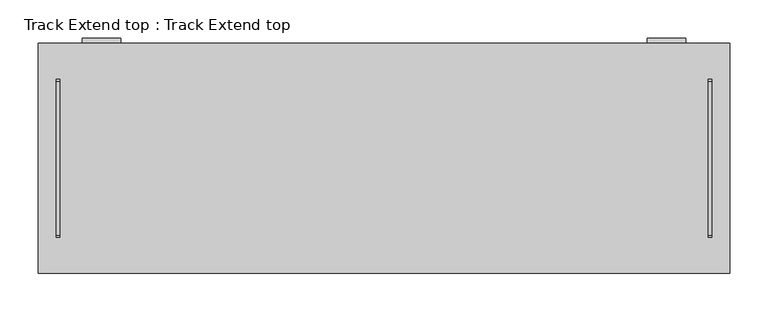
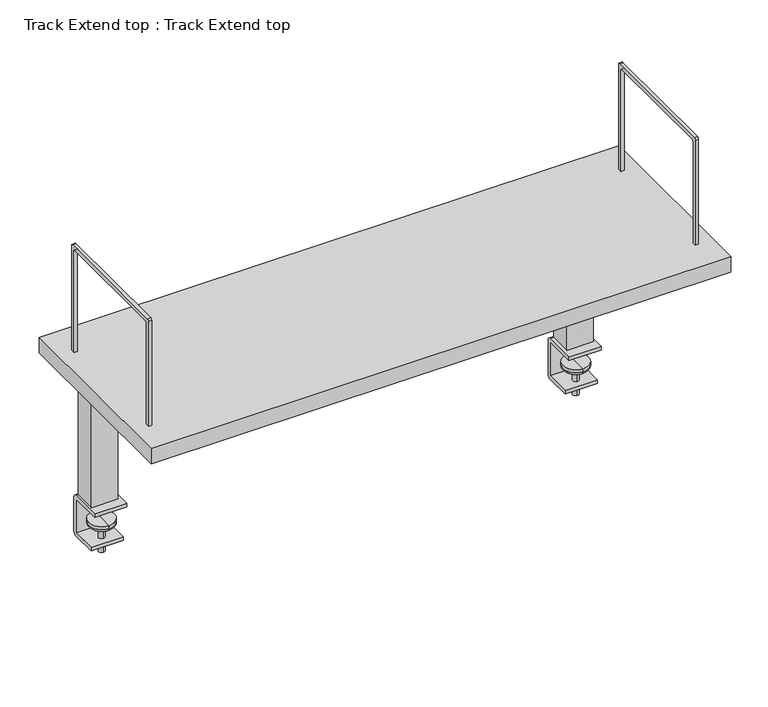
"""IFC4 building model written with IfcOpenShell, lengths in millimetres: furniture geometry, Track Extend top : Track Extend top."""

from ifc_helpers import new_model, si_unit, point, frame, frame_2d, origin, place, context, project, spatial, polyline, circle_curve, ellipse_curve, trimmed, segment, composite_curve, outline, extrude, source, transform, mapped, element, save
from ifc_brep_helpers import plane_surface, cylinder_surface, revolved_surface, advanced_brep


def track_extend_top_track_extend_top_a8d275c8(model_context):
    return source(origin(), model_context, "Body", "SolidModel", [
        extrude(outline(composite_curve([segment(polyline([(977.9999909, 347.5000008), (977.9999909, 389.5000057)]), True, "CONTINUOUS"), segment(trimmed(circle_curve(frame_2d((977.9999909, 387.5000024)), 2.0000033), [point((977.9999909, 389.5000057))], [point((979.9999943, 387.5000024))], False, "CARTESIAN"), True, "CONTINUOUS"), segment(polyline([(979.9999943, 387.5000024), (979.9999943, 347.5000008), (977.9999909, 347.5000008)]), True, "CONTINUOUS")], self_intersect=False)), frame((0.0, -200.0000015, 0.0), z_axis=(0.0, 1.0, 0.0), x_axis=(0.0, 0.0, 1.0)), (0.0, 0.0, 1.0), 200.0000015),
        extrude(outline(composite_curve([segment(polyline([(-79.5585159, 954.8786407), (-185.0003357, 964.9999706), (-198.0001236, 977.9999765), (-35.0001892, 977.9999765), (-35.0001892, 906.491415)]), True, "CONTINUOUS"), segment(trimmed(circle_curve(frame_2d((-84.2663421, 905.8335288)), 49.2705453), [point((-35.0001892, 906.491415))], [point((-79.5585159, 954.8786407))], True, "CARTESIAN"), True, "CONTINUOUS")], self_intersect=False)), frame((387.500003, 0.0, 0.0), z_axis=(1.0, 0.0, 0.0), x_axis=(0.0, 1.0, 0.0)), (0.0, 0.0, 1.0), 2.0000006),
        extrude(outline(polyline([(350.4999994, -33.0003113), (385.5000024, -33.0003113), (385.5000024, -18.0000641), (387.500003, -18.0000641), (387.500003, 0.0), (389.5000035, 0.0), (389.5000035, -35.0001892), (348.5000034, -35.0001892), (348.5000034, 0.0), (350.4999994, 0.0), (350.4999994, -33.0003113)])), frame((0.0, 0.0, 726.000024), z_axis=(0.0, 0.0, 1.0), x_axis=(1.0, 0.0, 0.0)), (0.0, 0.0, 1.0), 251.9999525),
        advanced_brep(
        [(368.0000032, -29.7499283, 641.9999914), (368.0000032, -24.9999275, 641.9999914), (368.0000032, -20.2499268, 641.9999914), (368.0000032, -29.7499283, 684.999983), (368.0000032, -20.2499268, 684.999983), (368.0000032, -39.9995789, 684.999983), (368.0000032, -10.0002762, 684.999983), (368.0000032, -44.9995789, 689.999983), (368.0000032, -5.0002762, 689.999983), (368.0000032, -44.9995789, 695.0000267), (368.0000032, -5.0002762, 695.0000267), (368.0000032, -24.9999275, 695.0000267)],
        [
            (0, 1),
            (1, 2),
            (2, 0, circle_curve(frame((368.0000032, -24.9999275, 641.9999914), z_axis=(0.0, 0.0, -1.0), x_axis=(0.0, 1.0, 0.0)), 4.7500008)),
            (0, 2, circle_curve(frame((368.0000032, -24.9999275, 641.9999914), z_axis=(0.0, 0.0, -1.0), x_axis=(0.0, 1.0, 0.0)), 4.7500008)),
            (3, 0),
            (2, 4),
            (4, 3, circle_curve(frame((368.0000032, -24.9999275, 684.999983), z_axis=(0.0, 0.0, -1.0), x_axis=(0.0, 1.0, 0.0)), 4.7500008)),
            (3, 4, circle_curve(frame((368.0000032, -24.9999275, 684.999983), z_axis=(0.0, 0.0, -1.0), x_axis=(0.0, 1.0, 0.0)), 4.7500008)),
            (5, 3),
            (4, 6),
            (6, 5, circle_curve(frame((368.0000032, -24.9999275, 684.999983), z_axis=(0.0, 0.0, -1.0), x_axis=(0.0, 1.0, 0.0)), 14.9996513)),
            (5, 6, circle_curve(frame((368.0000032, -24.9999275, 684.999983), z_axis=(0.0, 0.0, -1.0), x_axis=(0.0, 1.0, 0.0)), 14.9996513)),
            (7, 5, circle_curve(frame((368.0000032, -39.9995789, 689.999983), z_axis=(1.0, 0.0, 0.0), x_axis=(0.0, -1.0, 0.0)), 5.0)),
            (6, 8, circle_curve(frame((368.0000032, -10.0002762, 689.999983), z_axis=(1.0, 0.0, 0.0), x_axis=(0.0, 1.0, 0.0)), 5.0)),
            (8, 7, circle_curve(frame((368.0000032, -24.9999275, 689.999983), z_axis=(0.0, 0.0, -1.0), x_axis=(0.0, 1.0, 0.0)), 19.9996513)),
            (7, 8, circle_curve(frame((368.0000032, -24.9999275, 689.999983), z_axis=(0.0, 0.0, -1.0), x_axis=(0.0, 1.0, 0.0)), 19.9996513)),
            (9, 7),
            (8, 10),
            (10, 9, circle_curve(frame((368.0000032, -24.9999275, 695.0000267), z_axis=(0.0, 0.0, -1.0), x_axis=(0.0, 1.0, 0.0)), 19.9996513)),
            (9, 10, circle_curve(frame((368.0000032, -24.9999275, 695.0000267), z_axis=(0.0, 0.0, -1.0), x_axis=(0.0, 1.0, 0.0)), 19.9996513)),
            (11, 9),
            (10, 11),
        ],
        [
            plane_surface(frame((368.0000032, -24.9999275, 641.9999914), z_axis=(0.0, 0.0, -1.0), x_axis=(0.0, 1.0, 0.0))),
            cylinder_surface(frame((368.0000032, -24.9999275, 695.0000267), z_axis=(0.0, 0.0, 1.0), x_axis=(0.0, 1.0, 0.0)), 4.7500008),
            plane_surface(frame((368.0000032, -24.9999275, 684.999983), z_axis=(0.0, 0.0, -1.0), x_axis=(0.0, 1.0, 0.0))),
            revolved_surface(trimmed(ellipse_curve(frame((368.0000032, -10.0002762, 689.999983), z_axis=(1.0, 0.0, 0.0), x_axis=(0.0, 1.0, 0.0)), 5.0, 5.0), [point((368.0000032, -10.0002762, 684.999983))], [point((368.0000032, -5.0002762, 689.999983))], True, "CARTESIAN"), (368.0000032, -24.9999275, 695.0000267), (0.0, 0.0, 1.0)),
            cylinder_surface(frame((368.0000032, -24.9999275, 695.0000267), z_axis=(0.0, 0.0, 1.0), x_axis=(0.0, 1.0, 0.0)), 19.9996513),
            plane_surface(frame((368.0000032, -24.9999275, 695.0000267), z_axis=(0.0, 0.0, 1.0), x_axis=(0.0, 1.0, 0.0))),
        ],
        [
            (0, [[1, 2, 3]]),
            (0, [[-2, -1, 4]]),
            (1, [[5, -3, 6, 7]]),
            (1, [[-6, -4, -5, 8]]),
            (2, [[9, -7, 10, 11]]),
            (2, [[-10, -8, -9, 12]]),
            (3, [[13, -11, 14, 15]]),
            (3, [[-14, -12, -13, 16]]),
            (4, [[17, -15, 18, 19]]),
            (4, [[-18, -16, -17, 20]]),
            (5, [[21, -19, 22]]),
            (5, [[-22, -20, -21]]),
        ],
    ),
        extrude(outline(composite_curve([segment(trimmed(circle_curve(frame_2d((-0.0003662, 720.000024)), 6.0), [point((-0.0003662, 726.000024))], [point((5.9996338, 720.000024))], False, "CARTESIAN"), True, "CONTINUOUS"), segment(polyline([(5.9996338, 720.000024), (5.9996338, 665.0168597)]), True, "CONTINUOUS"), segment(trimmed(circle_curve(frame_2d((-0.0172547, 665.0168597)), 6.0168885), [point((5.9996338, 665.0168597))], [point((-0.0172547, 658.9999712))], False, "CARTESIAN"), True, "CONTINUOUS"), segment(polyline([(-0.0172547, 658.9999712), (-39.999884, 658.9999712), (-39.999884, 665.000041), (0.0, 665.000041), (0.0, 720.0000269), (-50.0004364, 720.0000269), (-50.0004364, 726.000024), (-0.0003662, 726.000024)]), True, "CONTINUOUS")], self_intersect=False)), frame((343.000003, 0.0, 0.0), z_axis=(1.0, 0.0, 0.0), x_axis=(0.0, 1.0, 0.0)), (0.0, 0.0, 1.0), 50.0000004),
        extrude(outline(composite_curve([segment(polyline([(977.9999909, -347.5000008), (979.9999943, -347.5000008), (979.9999943, -387.5000024)]), True, "CONTINUOUS"), segment(trimmed(circle_curve(frame_2d((977.9999909, -387.5000024)), 2.0000033), [point((979.9999943, -387.5000024))], [point((977.9999909, -389.5000057))], False, "CARTESIAN"), True, "CONTINUOUS"), segment(polyline([(977.9999909, -389.5000057), (977.9999909, -347.5000008)]), True, "CONTINUOUS")], self_intersect=False)), frame((0.0, -200.0000015, 0.0), z_axis=(0.0, 1.0, 0.0), x_axis=(0.0, 0.0, 1.0)), (0.0, 0.0, 1.0), 200.0000015),
        extrude(outline(composite_curve([segment(polyline([(-79.5585159, 954.8786407), (-185.0003357, 964.9999706), (-198.0001236, 977.9999765), (-35.0001892, 977.9999765), (-35.0001892, 906.491415)]), True, "CONTINUOUS"), segment(trimmed(circle_curve(frame_2d((-84.2663421, 905.8335288)), 49.2705453), [point((-35.0001892, 906.491415))], [point((-79.5585159, 954.8786407))], True, "CARTESIAN"), True, "CONTINUOUS")], self_intersect=False)), frame((-389.5000035, 0.0, 0.0), z_axis=(1.0, 0.0, 0.0), x_axis=(0.0, 1.0, 0.0)), (0.0, 0.0, 1.0), 2.0000006),
        extrude(outline(polyline([(-350.4999994, -33.0003113), (-350.4999994, 0.0), (-348.5000034, 0.0), (-348.5000034, -35.0001892), (-389.5000035, -35.0001892), (-389.5000035, 0.0), (-387.500003, 0.0), (-387.500003, -18.0000641), (-385.5000024, -18.0000641), (-385.5000024, -33.0003113), (-350.4999994, -33.0003113)])), frame((0.0, 0.0, 726.000024), z_axis=(0.0, 0.0, 1.0), x_axis=(1.0, 0.0, 0.0)), (0.0, 0.0, 1.0), 251.9999525),
        advanced_brep(
        [(-368.0000032, -29.7499283, 641.9999914), (-368.0000032, -20.2499268, 641.9999914), (-368.0000032, -24.9999275, 641.9999914), (-368.0000032, -29.7499283, 684.999983), (-368.0000032, -20.2499268, 684.999983), (-368.0000032, -39.9995789, 684.999983), (-368.0000032, -10.0002762, 684.999983), (-368.0000032, -44.9995789, 689.999983), (-368.0000032, -5.0002762, 689.999983), (-368.0000032, -44.9995789, 695.0000267), (-368.0000032, -5.0002762, 695.0000267), (-368.0000032, -24.9999275, 695.0000267)],
        [
            (0, 1, circle_curve(frame((-368.0000032, -24.9999275, 641.9999914), z_axis=(0.0, 0.0, -1.0), x_axis=(0.0, 1.0, 0.0)), 4.7500008)),
            (1, 2),
            (2, 0),
            (1, 0, circle_curve(frame((-368.0000032, -24.9999275, 641.9999914), z_axis=(0.0, 0.0, -1.0), x_axis=(0.0, 1.0, 0.0)), 4.7500008)),
            (3, 4, circle_curve(frame((-368.0000032, -24.9999275, 684.999983), z_axis=(0.0, 0.0, -1.0), x_axis=(0.0, 1.0, 0.0)), 4.7500008)),
            (4, 1),
            (0, 3),
            (4, 3, circle_curve(frame((-368.0000032, -24.9999275, 684.999983), z_axis=(0.0, 0.0, -1.0), x_axis=(0.0, 1.0, 0.0)), 4.7500008)),
            (5, 6, circle_curve(frame((-368.0000032, -24.9999275, 684.999983), z_axis=(0.0, 0.0, -1.0), x_axis=(0.0, 1.0, 0.0)), 14.9996513)),
            (6, 4),
            (3, 5),
            (6, 5, circle_curve(frame((-368.0000032, -24.9999275, 684.999983), z_axis=(0.0, 0.0, -1.0), x_axis=(0.0, 1.0, 0.0)), 14.9996513)),
            (7, 8, circle_curve(frame((-368.0000032, -24.9999275, 689.999983), z_axis=(0.0, 0.0, -1.0), x_axis=(0.0, 1.0, 0.0)), 19.9996513)),
            (8, 6, circle_curve(frame((-368.0000032, -10.0002762, 689.999983), z_axis=(-1.0, 0.0, 0.0), x_axis=(0.0, 1.0, 0.0)), 5.0)),
            (5, 7, circle_curve(frame((-368.0000032, -39.9995789, 689.999983), z_axis=(-1.0, 0.0, 0.0), x_axis=(0.0, -1.0, 0.0)), 5.0)),
            (8, 7, circle_curve(frame((-368.0000032, -24.9999275, 689.999983), z_axis=(0.0, 0.0, -1.0), x_axis=(0.0, 1.0, 0.0)), 19.9996513)),
            (9, 10, circle_curve(frame((-368.0000032, -24.9999275, 695.0000267), z_axis=(0.0, 0.0, -1.0), x_axis=(0.0, 1.0, 0.0)), 19.9996513)),
            (10, 8),
            (7, 9),
            (10, 9, circle_curve(frame((-368.0000032, -24.9999275, 695.0000267), z_axis=(0.0, 0.0, -1.0), x_axis=(0.0, 1.0, 0.0)), 19.9996513)),
            (11, 10),
            (9, 11),
        ],
        [
            plane_surface(frame((-368.0000032, -24.9999275, 641.9999914), z_axis=(0.0, 0.0, -1.0), x_axis=(0.0, 1.0, 0.0))),
            cylinder_surface(frame((-368.0000032, -24.9999275, 695.0000267), z_axis=(0.0, 0.0, 1.0), x_axis=(0.0, 1.0, 0.0)), 4.7500008),
            plane_surface(frame((-368.0000032, -24.9999275, 684.999983), z_axis=(0.0, 0.0, -1.0), x_axis=(0.0, 1.0, 0.0))),
            revolved_surface(trimmed(ellipse_curve(frame((-368.0000032, -10.0002762, 689.999983), z_axis=(1.0, 0.0, 0.0), x_axis=(0.0, 1.0, 0.0)), 5.0, 5.0), [point((-368.0000032, -10.0002762, 684.999983))], [point((-368.0000032, -5.0002762, 689.999983))], True, "CARTESIAN"), (-368.0000032, -24.9999275, 695.0000267), (0.0, 0.0, 1.0)),
            cylinder_surface(frame((-368.0000032, -24.9999275, 695.0000267), z_axis=(0.0, 0.0, 1.0), x_axis=(0.0, 1.0, 0.0)), 19.9996513),
            plane_surface(frame((-368.0000032, -24.9999275, 695.0000267), z_axis=(0.0, 0.0, 1.0), x_axis=(0.0, 1.0, 0.0))),
        ],
        [
            (0, [[1, 2, 3]]),
            (0, [[4, -3, -2]]),
            (1, [[5, 6, -1, 7]]),
            (1, [[8, -7, -4, -6]]),
            (2, [[9, 10, -5, 11]]),
            (2, [[12, -11, -8, -10]]),
            (3, [[13, 14, -9, 15]]),
            (3, [[16, -15, -12, -14]]),
            (4, [[17, 18, -13, 19]]),
            (4, [[20, -19, -16, -18]]),
            (5, [[21, -17, 22]]),
            (5, [[-22, -20, -21]]),
        ],
    ),
        extrude(outline(composite_curve([segment(trimmed(circle_curve(frame_2d((-0.0003662, 720.000024)), 6.0), [point((-0.0003662, 726.000024))], [point((5.9996338, 720.000024))], False, "CARTESIAN"), True, "CONTINUOUS"), segment(polyline([(5.9996338, 720.000024), (5.9996338, 665.0168597)]), True, "CONTINUOUS"), segment(trimmed(circle_curve(frame_2d((-0.0172547, 665.0168597)), 6.0168885), [point((5.9996338, 665.0168597))], [point((-0.0172547, 658.9999712))], False, "CARTESIAN"), True, "CONTINUOUS"), segment(polyline([(-0.0172547, 658.9999712), (-39.999884, 658.9999712), (-39.999884, 665.000041), (0.0, 665.000041), (0.0, 720.0000269), (-50.0004364, 720.0000269), (-50.0004364, 726.000024), (-0.0003662, 726.000024)]), True, "CONTINUOUS")], self_intersect=False)), frame((-393.0000034, 0.0, 0.0), z_axis=(1.0, 0.0, 0.0), x_axis=(0.0, 1.0, 0.0)), (0.0, 0.0, 1.0), 50.0000004),
        extrude(outline(composite_curve([segment(trimmed(circle_curve(frame_2d((-244.5227127, 1171.4109835)), 2.5), [point((-244.5227127, 1173.9109835))], [point((-247.0227127, 1171.4109835))], True, "CARTESIAN"), True, "CONTINUOUS"), segment(polyline([(-247.0227127, 1171.4109835), (-247.0227127, 1005.0), (-252.9775818, 1005.0), (-252.9775818, 1177.4109806)]), True, "CONTINUOUS"), segment(trimmed(circle_curve(frame_2d((-250.4775818, 1177.4109806)), 2.5), [point((-252.9775818, 1177.4109806))], [point((-250.4775818, 1179.9109806))], False, "CARTESIAN"), True, "CONTINUOUS"), segment(polyline([(-250.4775818, 1179.9109806), (-49.5227112, 1179.9109806)]), True, "CONTINUOUS"), segment(trimmed(circle_curve(frame_2d((-49.5227112, 1177.4109806)), 2.5), [point((-49.5227112, 1179.9109806))], [point((-47.0227112, 1177.4109806))], False, "CARTESIAN"), True, "CONTINUOUS"), segment(polyline([(-47.0227112, 1177.4109806), (-47.0227112, 1005.0), (-53.0229263, 1005.0), (-53.0229263, 1171.4109835)]), True, "CONTINUOUS"), segment(trimmed(circle_curve(frame_2d((-55.5229263, 1171.4109835)), 2.5), [point((-53.0229263, 1171.4109835))], [point((-55.5229263, 1173.9109835))], True, "CARTESIAN"), True, "CONTINUOUS"), segment(polyline([(-55.5229263, 1173.9109835), (-244.5227127, 1173.9109835)]), True, "CONTINUOUS")], self_intersect=False)), frame((422.0000024, 0.0, 0.0), z_axis=(1.0, 0.0, 0.0), x_axis=(0.0, 1.0, 0.0)), (0.0, 0.0, 1.0), 5.0000014),
        extrude(outline(composite_curve([segment(polyline([(-247.0227127, 1005.0), (-252.9775818, 1005.0), (-252.9775818, 1177.4109806)]), True, "CONTINUOUS"), segment(trimmed(circle_curve(frame_2d((-250.4775818, 1177.4109806)), 2.5), [point((-252.9775818, 1177.4109806))], [point((-250.4775818, 1179.9109806))], False, "CARTESIAN"), True, "CONTINUOUS"), segment(polyline([(-250.4775818, 1179.9109806), (-49.5227112, 1179.9109806)]), True, "CONTINUOUS"), segment(trimmed(circle_curve(frame_2d((-49.5227112, 1177.4109806)), 2.5), [point((-49.5227112, 1179.9109806))], [point((-47.0227112, 1177.4109806))], False, "CARTESIAN"), True, "CONTINUOUS"), segment(polyline([(-47.0227112, 1177.4109806), (-47.0227112, 1005.0), (-53.0229263, 1005.0), (-53.0229263, 1171.4109835)]), True, "CONTINUOUS"), segment(trimmed(circle_curve(frame_2d((-55.5229263, 1171.4109835)), 2.5), [point((-53.0229263, 1171.4109835))], [point((-55.5229263, 1173.9109835))], True, "CARTESIAN"), True, "CONTINUOUS"), segment(polyline([(-55.5229263, 1173.9109835), (-244.5227127, 1173.9109835)]), True, "CONTINUOUS"), segment(trimmed(circle_curve(frame_2d((-244.5227127, 1171.4109835)), 2.5), [point((-244.5227127, 1173.9109835))], [point((-247.0227127, 1171.4109835))], True, "CARTESIAN"), True, "CONTINUOUS"), segment(polyline([(-247.0227127, 1171.4109835), (-247.0227127, 1005.0)]), True, "CONTINUOUS")], self_intersect=False)), frame((-427.0000038, 0.0, 0.0), z_axis=(1.0, 0.0, 0.0), x_axis=(0.0, 1.0, 0.0)), (0.0, 0.0, 1.0), 5.0000014),
        extrude(outline(polyline([(-450.0000034, 0.0), (450.0000034, 0.0), (450.0000034, -300.000293), (-450.0000034, -300.000293), (-450.0000034, 0.0)])), frame((0.0, 0.0, 979.9999943), z_axis=(0.0, 0.0, 1.0), x_axis=(1.0, 0.0, 0.0)), (0.0, 0.0, 1.0), 25.0000057),
    ])


if __name__ == "__main__":
    model = new_model("IFC4")
    model_context = context("Model", 3, world=origin())
    ifc_project = project(units=[si_unit("LENGTHUNIT", "METRE", prefix="MILLI")], contexts=[model_context])
    site = spatial("IfcSite", under=ifc_project)
    building = spatial("IfcBuilding", under=site)
    placement = place(None, origin())
    track_extend_top_track_extend_top_shape = track_extend_top_track_extend_top_a8d275c8(model_context)
    element("IfcFurniture", 1, ObjectType="Track Extend top : Track Extend top", at=placement, inside=building, context=model_context, shape_type="MappedRepresentation", body=[
        mapped(track_extend_top_track_extend_top_shape, transform((0.0, 0.0, 0.0), x_axis=(1.0, 0.0, 0.0), y_axis=(0.0, 1.0, 0.0), z_axis=(0.0, 0.0, 1.0))),
    ])
    save(model, "model.ifc")
